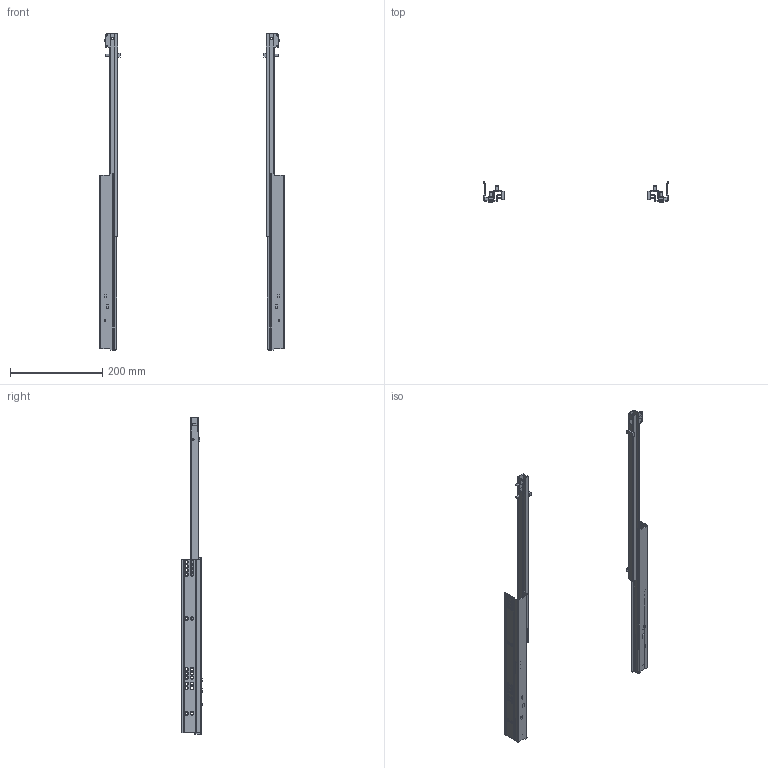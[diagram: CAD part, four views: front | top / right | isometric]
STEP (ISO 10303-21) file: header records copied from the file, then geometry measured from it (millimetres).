
FILE_DESCRIPTION(/* description */ (''),/* implementation_level */ '2;1');
FILE_NAME(/* name */ 'D:\$Workingspace\Designs\Katalog\Cadsoft\GTV Prowadnice\Prowadnice GTV_bryły 3D\PB-G10HX-600_wysunieta.stp',/* time_stamp */ '2016-11-21T14:36:43+01:00',/* author */ ('tomaszw'),/* organization */ (''),/* preprocessor_version */ 'ST-DEVELOPER v16.1',/* originating_system */ 'Autodesk Inventor 2016',/* authorisation */ '');
FILE_SCHEMA (('AUTOMOTIVE_DESIGN { 1 0 10303 214 3 1 1 }'));
Length unit declared in the file: millimetre
Products named in the file (5): PB-G10HX-CL-600; PB-G10HX-CR-600; PB-G10HX-DL-600; PB-G10HX-DR-600; PB-G10HX
Assembly tree (4 placements, depth 2):
  PB-G10HX
    PB-G10HX-CL-600
    PB-G10HX-CR-600
    PB-G10HX-DL-600
    PB-G10HX-DR-600
Bounding box: 400 x 43.8 x 687 mm (x, y, z)
Volume: 210058.1 mm3; surface area: 254500 mm2
Topology: 8 solids, 8 shells, 396 faces, 1054 edges, 688 vertices
Faces by surface type: plane 222, cylinder 122, cone 44, sphere 8
Full cylindrical faces by diameter (mm): 2 x2, 3 x4, 4 x2, 5 x4, 6 x44, 9 x2, 10 x2
Entity records: 12097 total; most frequent: DIRECTION 2006, CARTESIAN_POINT 1953, ORIENTED_EDGE 1816, EDGE_CURVE 906, AXIS2_PLACEMENT_3D 695, VERTEX_POINT 642, EDGE_LOOP 622, LINE 616
